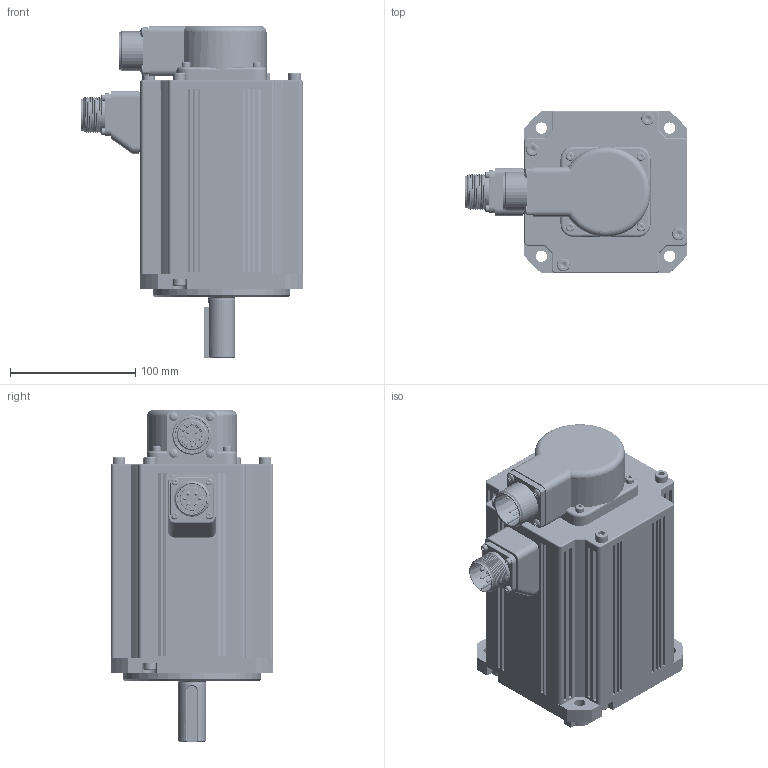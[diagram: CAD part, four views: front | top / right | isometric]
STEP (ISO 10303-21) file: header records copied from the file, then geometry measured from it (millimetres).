
FILE_DESCRIPTION((''),'2;1');
FILE_NAME('11101-01377_ASM','2024-11-12T15:00:45',('0109276'),(''),'CREO PARAMETRIC BY PTC INC, 2019080','CREO PARAMETRIC BY PTC INC, 2019080','');
FILE_SCHEMA(('CONFIG_CONTROL_DESIGN'));
Products named in the file (147): 80040347_AF1; 66670025_AF12; 66670025_AF13; 66670025_AF14; 66670025_AF15; 66670025_AF16; 66670025_AF17; 66670025_AF18; 66670025_AF19; 66670025_AF20; 66670025_AF21; 66670025_AF22; 66670025_AF23; 77840006_AF24; 77840006_AF25; 77840006_AF26; 77840006_AF27; 77840006_AF28; 77840006_AF29; 77840006_AF30; 77840006_AF31; 77840006_AF32; 77840006_AF33; 77840006_AF34; 77840006_AF35; 77840006_AF36; 77840006_AF37; 77840006_AF38; 77840006_AF39; 77840006_AF40; 77840006_AF41; 77840006_AF42; 77840006_AF43; 77840006_AF44; 77840006_AF45; 77840006_AF46; 77840006_AF47; PCB_PM2301_CV1_AF1; QBX-30C-2_AF12; QBX-30C-2_AF13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
Assembly tree (149 placements, depth 4):
  11101-01377_ASM
    12112-01169_AF1_ASM
      80040347_AF1
      66670025_AF12
      66670025_AF13
      66670025_AF14
      66670025_AF15
      66670025_AF16
      66670025_AF17
      66670025_AF18
      66670025_AF19
      66670025_AF20
      66670025_AF21
      66670025_AF22
      66670025_AF23
      77840006_AF24
      77840006_AF25
      77840006_AF26
      77840006_AF27
      77840006_AF28
      77840006_AF29
      77840006_AF30
      77840006_AF31
      77840006_AF32
      77840006_AF33
      77840006_AF34
      77840006_AF35
      77840006_AF36
      77840006_AF37
      77840006_AF38
      77840006_AF39
      77840006_AF40
      77840006_AF41
      77840006_AF42
      77840006_AF43
      77840006_AF44
      77840006_AF45
      77840006_AF46
      77840006_AF47
      PCB_PM2301_CV1_AF1
      QBX-30C-2_AF12
      QBX-30C-2_AF13
      QBX-30C-2_AF14
      QBX-30C-2_AF15
      QBX-30C-2_AF16
      QBX-30C-2_AF17
      QBX-30C-2_AF18
      QBX-30C-2_AF19
      QBX-30C-2_AF20
      QBX-30C-2_AF21
      QBX-30C-2_AF22
      QBX-30C-2_AF23
      CMS05A18-A6-130UL_0001_ASM
        50051-00115-UL
        50058-00155-UL
        18-A6-18FLANGE-CUSTOM-3D-UL
        M3X35-_AF000
        M3X35-_AF100
        M3X35-_AF200
        M3X35-_AF300
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Bounding box: 177.2 x 130 x 265.5 mm (x, y, z)
Volume: 704008.5 mm3; surface area: 369330.9 mm2
Topology: 35 solids, 48 shells, 5912 faces, 16150 edges, 10525 vertices
Faces by surface type: plane 2161, cylinder 2130, extrusion 812, bspline 426, torus 185, cone 154, sphere 44
Entity records: 296449 total; most frequent: CARTESIAN_POINT 160148, ORIENTED_EDGE 30380, DIRECTION 23098, EDGE_CURVE 15210, VERTEX_POINT 9964, VECTOR 9242, LINE 8430, AXIS2_PLACEMENT_3D 6928
